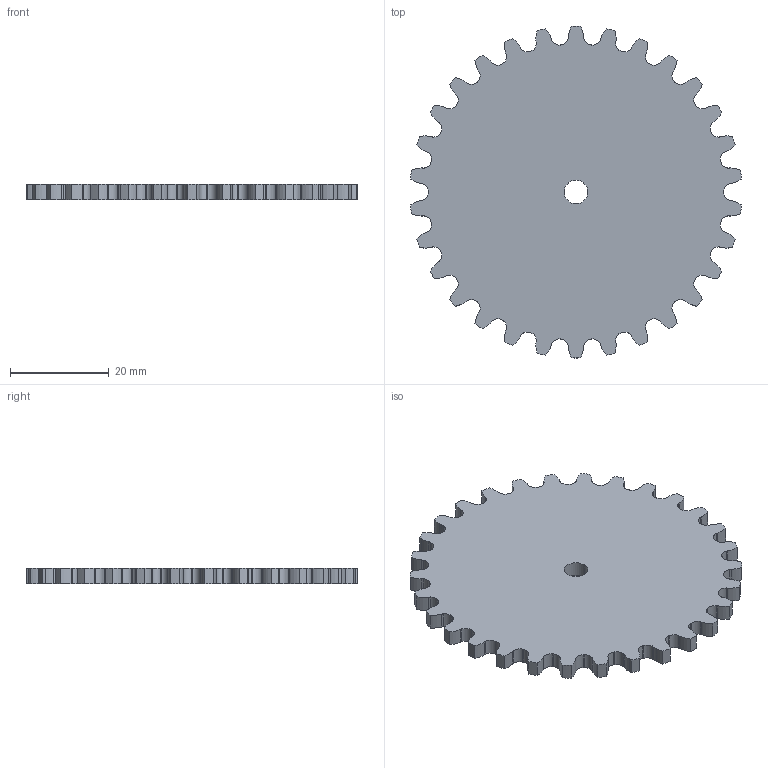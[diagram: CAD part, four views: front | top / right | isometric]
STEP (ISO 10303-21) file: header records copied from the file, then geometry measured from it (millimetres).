
FILE_DESCRIPTION (( 'STEP AP214' ), '1' );
FILE_NAME ('big gear.STEP', '2019-10-04T00:58:31', ( 'John' ), ( 'Not Good' ), 'SwSTEP 2.0', 'SolidWorks 2008', '' );
FILE_SCHEMA (( 'AUTOMOTIVE_DESIGN' ));
Length unit declared in the file: inch
Products named in the file (1): big gear
Bounding box: 67.1 x 67.31 x 3.17 mm (x, y, z)
Volume: 10000.2 mm3; surface area: 7556.8 mm2
Topology: 1 solids, 1 shells, 263 faces, 783 edges, 522 vertices
Faces by surface type: cylinder 201, plane 62
Entity records: 9070 total; most frequent: DIRECTION 1713, CARTESIAN_POINT 1569, ORIENTED_EDGE 1566, EDGE_CURVE 783, AXIS2_PLACEMENT_3D 666, VERTEX_POINT 522, CIRCLE 402, VECTOR 381
